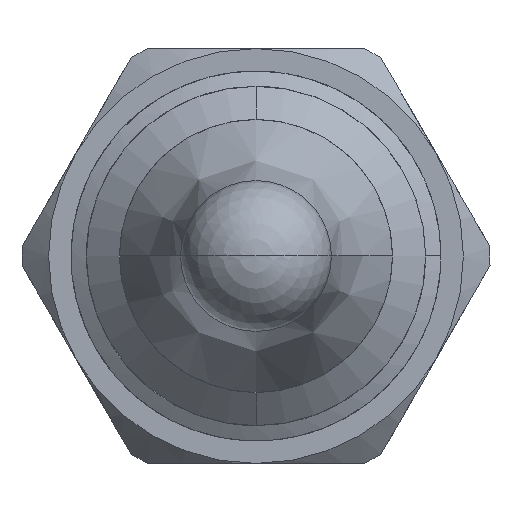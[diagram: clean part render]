
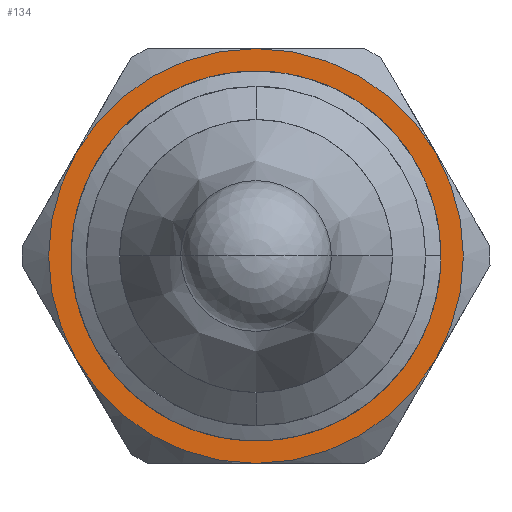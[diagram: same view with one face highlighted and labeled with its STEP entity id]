
A CAD part, front view. The second image highlights one B-rep face of the part: STEP entity #134.
In plain terms, the highlighted planar face has unit normal (0, -1, 0).
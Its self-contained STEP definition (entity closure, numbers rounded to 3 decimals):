
#21 = FACE_BOUND ( 'NONE', #1073, .T. ) ;
#25 = DIRECTION ( 'NONE',  ( 0., -1., 0. ) ) ;
#44 = VERTEX_POINT ( 'NONE', #4830 ) ;
#122 = EDGE_LOOP ( 'NONE', ( #1142, #577, #2991, #541, #5133, #3723 ) ) ;
#134 = ADVANCED_FACE ( 'NONE', ( #21, #4908 ), #3772, .F. ) ;
#175 = VERTEX_POINT ( 'NONE', #4223 ) ;
#253 = CARTESIAN_POINT ( 'NONE',  ( 0., 0., 0. ) ) ;
#265 = EDGE_CURVE ( 'NONE', #474, #175, #2561, .T. ) ;
#450 = VERTEX_POINT ( 'NONE', #2517 ) ;
#474 = VERTEX_POINT ( 'NONE', #4193 ) ;
#541 = ORIENTED_EDGE ( 'NONE', *, *, #587, .F. ) ;
#577 = ORIENTED_EDGE ( 'NONE', *, *, #265, .F. ) ;
#587 = EDGE_CURVE ( 'NONE', #1394, #2656, #4933, .T. ) ;
#653 = DIRECTION ( 'NONE',  ( 0., 0., 1. ) ) ;
#887 = AXIS2_PLACEMENT_3D ( 'NONE', #2185, #3814, #3018 ) ;
#913 = CARTESIAN_POINT ( 'NONE',  ( 0., 0., 0. ) ) ;
#1020 = CIRCLE ( 'NONE', #3998, 11. ) ;
#1073 = EDGE_LOOP ( 'NONE', ( #4372, #4203 ) ) ;
#1142 = ORIENTED_EDGE ( 'NONE', *, *, #4895, .F. ) ;
#1196 = AXIS2_PLACEMENT_3D ( 'NONE', #2523, #25, #1640 ) ;
#1307 = DIRECTION ( 'NONE',  ( 0., 1., 0. ) ) ;
#1394 = VERTEX_POINT ( 'NONE', #3766 ) ;
#1398 = DIRECTION ( 'NONE',  ( 0., 0., 1. ) ) ;
#1620 = CIRCLE ( 'NONE', #1196, 9. ) ;
#1635 = DIRECTION ( 'NONE',  ( 0., 1., 0. ) ) ;
#1640 = DIRECTION ( 'NONE',  ( 0., 0., 1. ) ) ;
#1659 = CARTESIAN_POINT ( 'NONE',  ( 0., 0., 0. ) ) ;
#1716 = CARTESIAN_POINT ( 'NONE',  ( 0., 0., 0. ) ) ;
#1743 = EDGE_CURVE ( 'NONE', #4056, #44, #1620, .T. ) ;
#2185 = CARTESIAN_POINT ( 'NONE',  ( 0., 0., 0. ) ) ;
#2192 = DIRECTION ( 'NONE',  ( 0., 0., 1. ) ) ;
#2384 = CIRCLE ( 'NONE', #2721, 11. ) ;
#2517 = CARTESIAN_POINT ( 'NONE',  ( 9.526, 0., -5.5 ) ) ;
#2522 = DIRECTION ( 'NONE',  ( 0., 0., -1. ) ) ;
#2523 = CARTESIAN_POINT ( 'NONE',  ( 0., 0., 0. ) ) ;
#2561 = CIRCLE ( 'NONE', #5021, 11. ) ;
#2656 = VERTEX_POINT ( 'NONE', #2711 ) ;
#2711 = CARTESIAN_POINT ( 'NONE',  ( -9.526, 0., -5.5 ) ) ;
#2721 = AXIS2_PLACEMENT_3D ( 'NONE', #1716, #3801, #2522 ) ;
#2901 = CIRCLE ( 'NONE', #4419, 11. ) ;
#2943 = DIRECTION ( 'NONE',  ( 0., 0., 1. ) ) ;
#2991 = ORIENTED_EDGE ( 'NONE', *, *, #3462, .F. ) ;
#3018 = DIRECTION ( 'NONE',  ( 0., 0., 1. ) ) ;
#3284 = DIRECTION ( 'NONE',  ( 0., 1., 0. ) ) ;
#3320 = DIRECTION ( 'NONE',  ( 1., 0., 0. ) ) ;
#3350 = EDGE_CURVE ( 'NONE', #1394, #450, #2384, .T. ) ;
#3397 = CARTESIAN_POINT ( 'NONE',  ( 0., 0., 0. ) ) ;
#3457 = DIRECTION ( 'NONE',  ( 0., 1., 0. ) ) ;
#3462 = EDGE_CURVE ( 'NONE', #2656, #474, #3568, .T. ) ;
#3568 = CIRCLE ( 'NONE', #3996, 11. ) ;
#3723 = ORIENTED_EDGE ( 'NONE', *, *, #4880, .F. ) ;
#3766 = CARTESIAN_POINT ( 'NONE',  ( 0., 0., -11. ) ) ;
#3772 = PLANE ( 'NONE',  #4341 ) ;
#3801 = DIRECTION ( 'NONE',  ( 0., -1., 0. ) ) ;
#3814 = DIRECTION ( 'NONE',  ( 0., -1., 0. ) ) ;
#3996 = AXIS2_PLACEMENT_3D ( 'NONE', #253, #3457, #1398 ) ;
#3998 = AXIS2_PLACEMENT_3D ( 'NONE', #913, #3284, #4898 ) ;
#4031 = VERTEX_POINT ( 'NONE', #4790 ) ;
#4056 = VERTEX_POINT ( 'NONE', #5137 ) ;
#4193 = CARTESIAN_POINT ( 'NONE',  ( -9.526, 0., 5.5 ) ) ;
#4203 = ORIENTED_EDGE ( 'NONE', *, *, #1743, .F. ) ;
#4223 = CARTESIAN_POINT ( 'NONE',  ( 0., 0., 11. ) ) ;
#4273 = DIRECTION ( 'NONE',  ( 0., 1., 0. ) ) ;
#4341 = AXIS2_PLACEMENT_3D ( 'NONE', #1659, #1635, #3320 ) ;
#4372 = ORIENTED_EDGE ( 'NONE', *, *, #5106, .F. ) ;
#4419 = AXIS2_PLACEMENT_3D ( 'NONE', #4948, #1307, #2943 ) ;
#4642 = DIRECTION ( 'NONE',  ( 0., 1., 0. ) ) ;
#4682 = AXIS2_PLACEMENT_3D ( 'NONE', #3397, #4273, #2192 ) ;
#4790 = CARTESIAN_POINT ( 'NONE',  ( 9.526, 0., 5.5 ) ) ;
#4830 = CARTESIAN_POINT ( 'NONE',  ( 0., 0., 9. ) ) ;
#4880 = EDGE_CURVE ( 'NONE', #4031, #450, #2901, .T. ) ;
#4895 = EDGE_CURVE ( 'NONE', #175, #4031, #1020, .T. ) ;
#4898 = DIRECTION ( 'NONE',  ( 0., 0., 1. ) ) ;
#4908 = FACE_OUTER_BOUND ( 'NONE', #122, .T. ) ;
#4933 = CIRCLE ( 'NONE', #4682, 11. ) ;
#4948 = CARTESIAN_POINT ( 'NONE',  ( 0., 0., 0. ) ) ;
#4984 = CARTESIAN_POINT ( 'NONE',  ( 0., 0., 0. ) ) ;
#5021 = AXIS2_PLACEMENT_3D ( 'NONE', #4984, #4642, #653 ) ;
#5047 = CIRCLE ( 'NONE', #887, 9. ) ;
#5106 = EDGE_CURVE ( 'NONE', #44, #4056, #5047, .T. ) ;
#5133 = ORIENTED_EDGE ( 'NONE', *, *, #3350, .T. ) ;
#5137 = CARTESIAN_POINT ( 'NONE',  ( 0., 0., -9. ) ) ;
